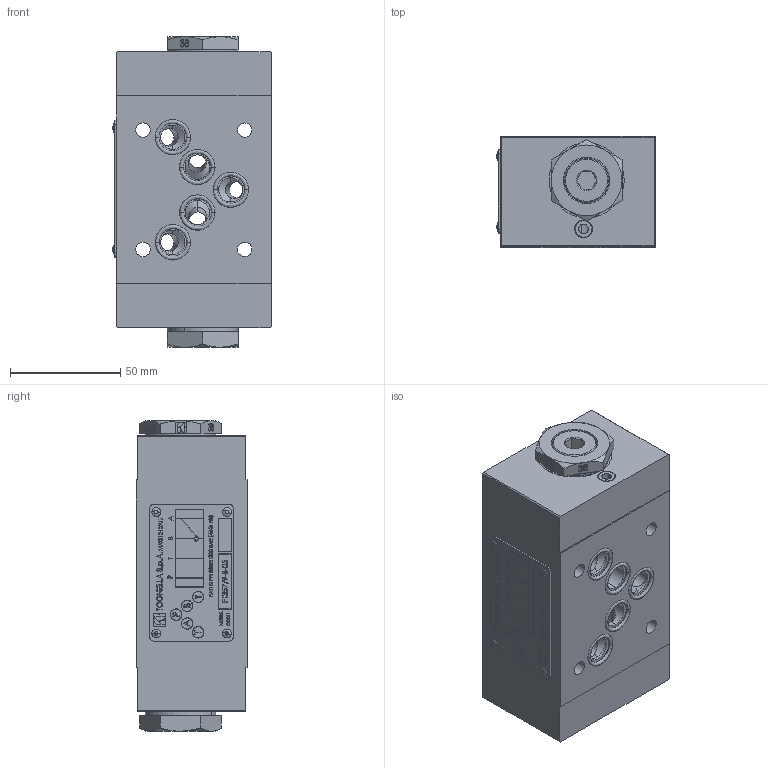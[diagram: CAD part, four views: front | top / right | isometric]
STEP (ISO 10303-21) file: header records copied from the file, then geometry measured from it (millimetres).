
FILE_DESCRIPTION (( 'STEP AP214' ), '1' );
FILE_NAME ('357-9-B-05.STEP', '2019-12-04T08:18:19', ( '' ), ( '' ), 'SwSTEP 2.0', 'SolidWorks 2018', '' );
FILE_SCHEMA (( 'AUTOMOTIVE_DESIGN' ));
Length unit declared in the file: millimetre
Products named in the file (1): 357-9-B-05
Bounding box: 71.66 x 50.58 x 140.6 mm (x, y, z)
Surface area: 54260.4 mm2 (no closed solid volume)
Topology: 0 solids, 45 shells, 750 faces, 3641 edges, 2821 vertices
Faces by surface type: plane 422, bspline 137, cylinder 131, cone 52, sphere 8
Entity records: 59561 total; most frequent: CARTESIAN_POINT 25158, ORIENTED_EDGE 4959, DIRECTION 4317, EDGE_CURVE 3639, VERTEX_POINT 2821, LINE 2365, VECTOR 2365, AXIS2_PLACEMENT_3D 976
